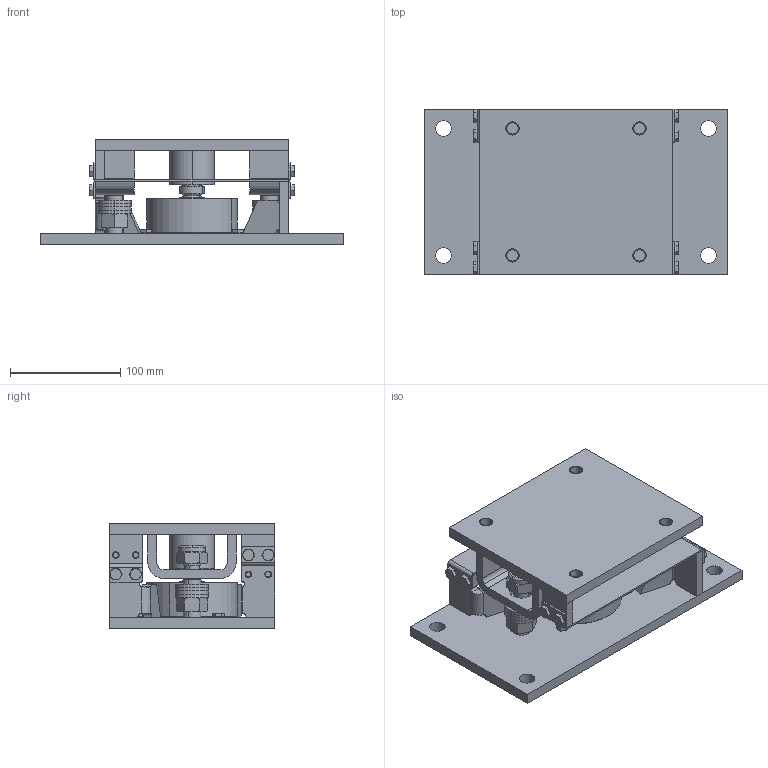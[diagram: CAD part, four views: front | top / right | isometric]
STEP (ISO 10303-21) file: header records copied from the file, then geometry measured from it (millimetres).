
FILE_DESCRIPTION((''),'1');
FILE_NAME('LMLAV_version-B.step','2020-05-18T09:59:23',(''),(''),'','','');
FILE_SCHEMA(('AUTOMOTIVE_DESIGN { 1 0 10303 214 1 1 1 1 }'));
Products named in the file (19): LMLAV plate 01; LMLAV base 01; LMLAV part 02; LMLAV plate 02; LMLAV part 03; LMLAV version-B; LMLAV part 04; LMLAV load cell 01; LMLAV body 01; LMLAV cable gland 01; LMLAV plate 03; LMLAV base 03; LMLAV plate 04; LMLAV pin 01; LMLAV screw 01; LMLAV screw 02; LMLAV nut 01; LMLAV screw 03; LMLAV nut 02
Assembly tree (41 placements, depth 3):
  LMLAV version-B
    LMLAV plate 01
      LMLAV base 01
      LMLAV part 02  x2
      LMLAV plate 02  x2
      LMLAV part 03
    LMLAV part 04  x2
    LMLAV load cell 01
      LMLAV body 01
      LMLAV cable gland 01
    LMLAV plate 03
      LMLAV base 03
      LMLAV plate 04  x2
      LMLAV pin 01  x2
    LMLAV screw 01  x3
    LMLAV screw 02  x8
    LMLAV nut 01  x2
    LMLAV screw 03  x8
    LMLAV nut 02  x2
Bounding box: 275 x 150 x 95 mm (x, y, z)
Volume: 1071341.9 mm3; surface area: 290923.1 mm2
Topology: 38 solids, 59 shells, 843 faces, 1953 edges, 1224 vertices
Faces by surface type: cylinder 308, plane 293, cone 200, torus 36, bspline 4, sphere 2
Entity records: 12267 total; most frequent: CARTESIAN_POINT 2298, DIRECTION 2130, ORIENTED_EDGE 1766, EDGE_CURVE 913, AXIS2_PLACEMENT_3D 865, VERTEX_POINT 574, EDGE_LOOP 455, CIRCLE 423
